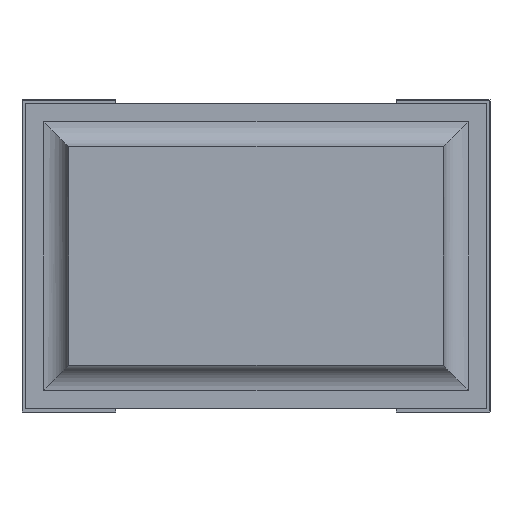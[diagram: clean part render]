
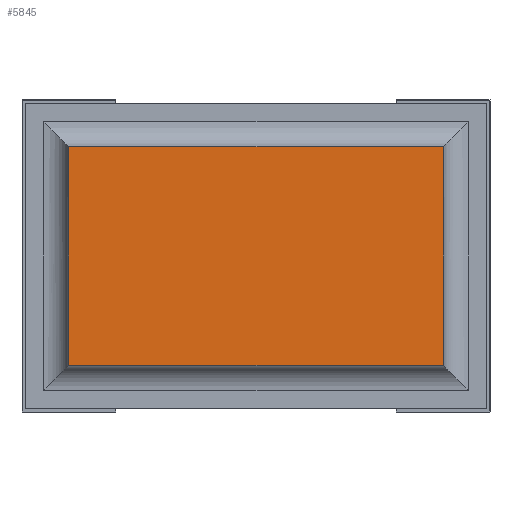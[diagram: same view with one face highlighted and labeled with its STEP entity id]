
A CAD part, front view. The second image highlights one B-rep face of the part: STEP entity #5845.
In plain terms, the highlighted planar face has unit normal (0, -1, 0).
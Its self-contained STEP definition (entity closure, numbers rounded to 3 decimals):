
#140=PLANE('',#6220);
#403=FACE_OUTER_BOUND('',#728,.T.);
#728=EDGE_LOOP('',(#4161,#4162,#4163,#4164));
#1095=LINE('',#8454,#1845);
#1098=LINE('',#8460,#1848);
#1099=LINE('',#8463,#1849);
#1100=LINE('',#8464,#1850);
#1845=VECTOR('',#6804,10.);
#1848=VECTOR('',#6809,10.);
#1849=VECTOR('',#6812,10.);
#1850=VECTOR('',#6813,10.);
#2619=VERTEX_POINT('',#8450);
#2620=VERTEX_POINT('',#8452);
#2622=VERTEX_POINT('',#8458);
#2623=VERTEX_POINT('',#8462);
#3221=EDGE_CURVE('',#2619,#2620,#1095,.T.);
#3224=EDGE_CURVE('',#2622,#2620,#1098,.T.);
#3225=EDGE_CURVE('',#2623,#2622,#1099,.T.);
#3226=EDGE_CURVE('',#2619,#2623,#1100,.T.);
#4161=ORIENTED_EDGE('',*,*,#3224,.F.);
#4162=ORIENTED_EDGE('',*,*,#3225,.F.);
#4163=ORIENTED_EDGE('',*,*,#3226,.F.);
#4164=ORIENTED_EDGE('',*,*,#3221,.T.);
#5845=ADVANCED_FACE('',(#403),#140,.T.);
#6220=AXIS2_PLACEMENT_3D('',#8461,#6810,#6811);
#6804=DIRECTION('',(0.,0.,-1.));
#6809=DIRECTION('',(-1.,0.,0.));
#6810=DIRECTION('center_axis',(0.,-1.,0.));
#6811=DIRECTION('ref_axis',(0.,0.,-1.));
#6812=DIRECTION('',(0.,0.,-1.));
#6813=DIRECTION('',(1.,0.,0.));
#8450=CARTESIAN_POINT('',(0.075,0.,0.425));
#8452=CARTESIAN_POINT('',(0.075,0.,0.075));
#8454=CARTESIAN_POINT('',(0.075,0.,0.425));
#8458=CARTESIAN_POINT('',(0.675,0.,0.075));
#8460=CARTESIAN_POINT('',(0.675,0.,0.075));
#8461=CARTESIAN_POINT('Origin',(0.676,0.,0.25));
#8462=CARTESIAN_POINT('',(0.675,0.,0.425));
#8463=CARTESIAN_POINT('',(0.675,0.,0.425));
#8464=CARTESIAN_POINT('',(0.075,0.,0.425));
